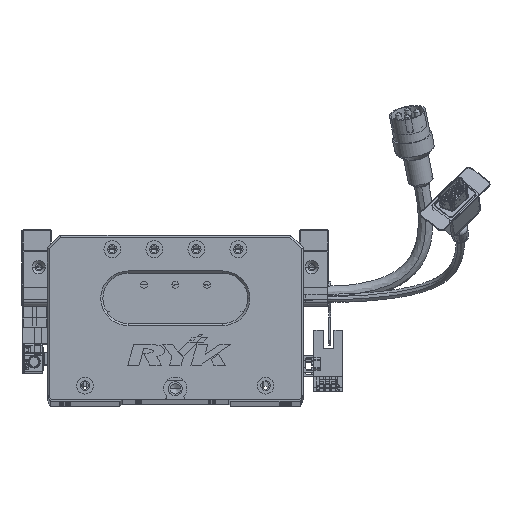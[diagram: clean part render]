
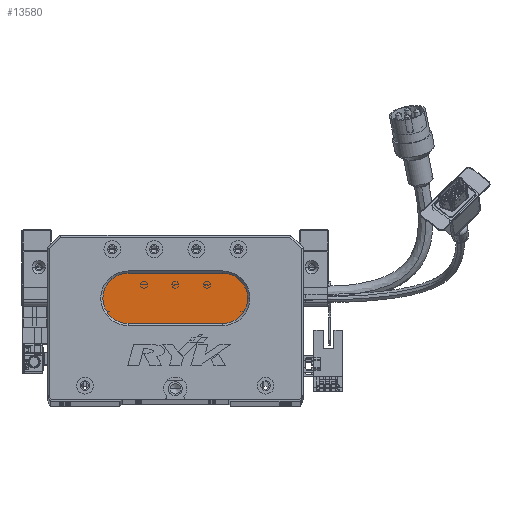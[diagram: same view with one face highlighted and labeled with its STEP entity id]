
A CAD part, top view. The second image highlights one B-rep face of the part: STEP entity #13580.
In plain terms, the highlighted planar face has unit normal (0, 0, 1) as drawn and (0, 0, -1) by its records, which use the part's own axes.
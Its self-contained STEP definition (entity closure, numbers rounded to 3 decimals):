
#617 = EDGE_CURVE ( 'NONE', #47648, #51140, #33031, .T. ) ;
#1795 = CARTESIAN_POINT ( 'NONE',  ( 26.5, 48., 13. ) ) ;
#4551 = CARTESIAN_POINT ( 'NONE',  ( 83.5, 36., 13. ) ) ;
#4825 = CARTESIAN_POINT ( 'NONE',  ( 38.5, 60., 13. ) ) ;
#5265 = CARTESIAN_POINT ( 'NONE',  ( 83.5, 36., 13. ) ) ;
#6296 = CIRCLE ( 'NONE', #46223, 12. ) ;
#6470 = ORIENTED_EDGE ( 'NONE', *, *, #23693, .T. ) ;
#6501 = LINE ( 'NONE', #65242, #53080 ) ;
#13580 = ADVANCED_FACE ( 'NONE', ( #34307 ), #21358, .T. ) ;
#15027 = AXIS2_PLACEMENT_3D ( 'NONE', #15263, #83748, #70112 ) ;
#15263 = CARTESIAN_POINT ( 'NONE',  ( 83.5, 48., 13. ) ) ;
#19021 = ORIENTED_EDGE ( 'NONE', *, *, #81600, .T. ) ;
#21358 = PLANE ( 'NONE',  #15027 ) ;
#23693 = EDGE_CURVE ( 'NONE', #64547, #38027, #62984, .T. ) ;
#25686 = ORIENTED_EDGE ( 'NONE', *, *, #64266, .T. ) ;
#29840 = DIRECTION ( 'NONE',  ( 0., 0., -1. ) ) ;
#30141 = DIRECTION ( 'NONE',  ( -1., 0., 0. ) ) ;
#32397 = DIRECTION ( 'NONE',  ( -1., 0., 0. ) ) ;
#33031 = CIRCLE ( 'NONE', #33600, 12. ) ;
#33600 = AXIS2_PLACEMENT_3D ( 'NONE', #67562, #67885, #32397 ) ;
#33642 = VECTOR ( 'NONE', #38779, 1000. ) ;
#34307 = FACE_OUTER_BOUND ( 'NONE', #47952, .T. ) ;
#36243 = DIRECTION ( 'NONE',  ( -1., 0., 0. ) ) ;
#36729 = ORIENTED_EDGE ( 'NONE', *, *, #617, .T. ) ;
#38027 = VERTEX_POINT ( 'NONE', #47490 ) ;
#38779 = DIRECTION ( 'NONE',  ( -1., 0., 0. ) ) ;
#42704 = AXIS2_PLACEMENT_3D ( 'NONE', #56878, #85054, #36243 ) ;
#46223 = AXIS2_PLACEMENT_3D ( 'NONE', #85317, #29840, #30141 ) ;
#47490 = CARTESIAN_POINT ( 'NONE',  ( 38.5, 36., 13. ) ) ;
#47648 = VERTEX_POINT ( 'NONE', #1795 ) ;
#47952 = EDGE_LOOP ( 'NONE', ( #25686, #6470, #60347, #36729, #19021 ) ) ;
#50233 = CIRCLE ( 'NONE', #42704, 12. ) ;
#51010 = DIRECTION ( 'NONE',  ( 1., 0., 0. ) ) ;
#51140 = VERTEX_POINT ( 'NONE', #4825 ) ;
#53080 = VECTOR ( 'NONE', #51010, 1000. ) ;
#56878 = CARTESIAN_POINT ( 'NONE',  ( 38.5, 48., 13. ) ) ;
#60347 = ORIENTED_EDGE ( 'NONE', *, *, #82781, .T. ) ;
#62984 = LINE ( 'NONE', #4551, #33642 ) ;
#64266 = EDGE_CURVE ( 'NONE', #73629, #64547, #6296, .T. ) ;
#64547 = VERTEX_POINT ( 'NONE', #5265 ) ;
#65242 = CARTESIAN_POINT ( 'NONE',  ( 83.5, 60., 13. ) ) ;
#67562 = CARTESIAN_POINT ( 'NONE',  ( 38.5, 48., 13. ) ) ;
#67885 = DIRECTION ( 'NONE',  ( 0., 0., -1. ) ) ;
#70112 = DIRECTION ( 'NONE',  ( -1., 0., 0. ) ) ;
#73629 = VERTEX_POINT ( 'NONE', #86485 ) ;
#81600 = EDGE_CURVE ( 'NONE', #51140, #73629, #6501, .T. ) ;
#82781 = EDGE_CURVE ( 'NONE', #38027, #47648, #50233, .T. ) ;
#83748 = DIRECTION ( 'NONE',  ( 0., 0., -1. ) ) ;
#85054 = DIRECTION ( 'NONE',  ( 0., 0., -1. ) ) ;
#85317 = CARTESIAN_POINT ( 'NONE',  ( 83.5, 48., 13. ) ) ;
#86485 = CARTESIAN_POINT ( 'NONE',  ( 83.5, 60., 13. ) ) ;
